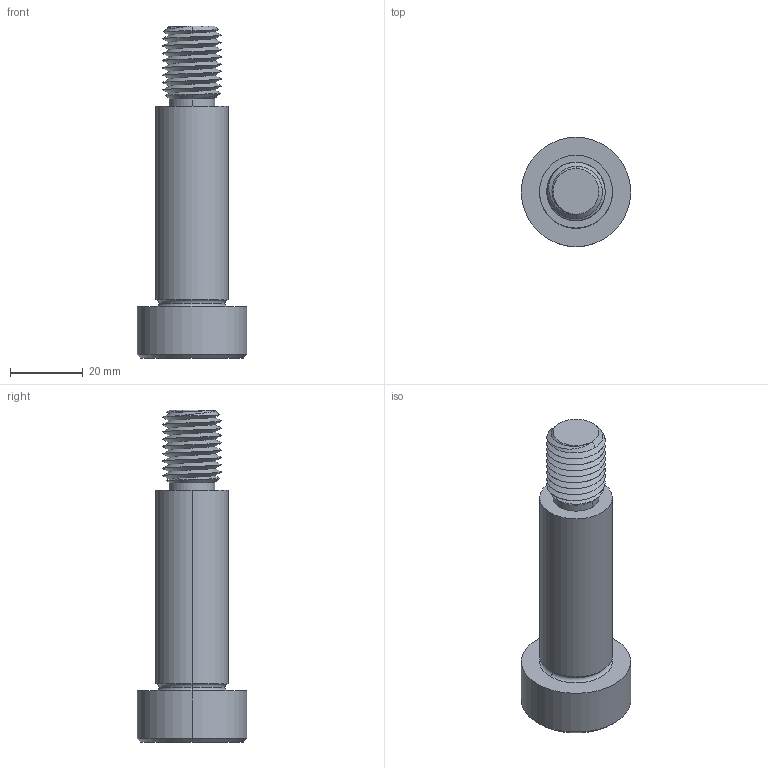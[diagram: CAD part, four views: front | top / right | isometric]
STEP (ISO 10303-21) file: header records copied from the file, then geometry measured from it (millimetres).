
FILE_DESCRIPTION (( 'STEP AP203' ), '1' );
FILE_NAME ('P0130.200-055-B2.step', '2021-11-09T22:23:44', ( '' ), ( '' ), 'SwSTEP 2.0', 'SolidWorks 2019', '' );
FILE_SCHEMA (( 'CONFIG_CONTROL_DESIGN' ));
Length unit declared in the file: millimetre
Products named in the file (1): P0130.200-055-B2
Bounding box: 30 x 30 x 91 mm (x, y, z)
Volume: 29484.8 mm3; surface area: 8359.6 mm2
Topology: 1 solids, 1 shells, 60 faces, 142 edges, 85 vertices
Faces by surface type: cylinder 24, plane 16, cone 14, torus 4, bspline 2
Entity records: 5678 total; most frequent: CARTESIAN_POINT 4332, ORIENTED_EDGE 280, DIRECTION 247, EDGE_CURVE 140, AXIS2_PLACEMENT_3D 99, VERTEX_POINT 85, EDGE_LOOP 63, ADVANCED_FACE 60
